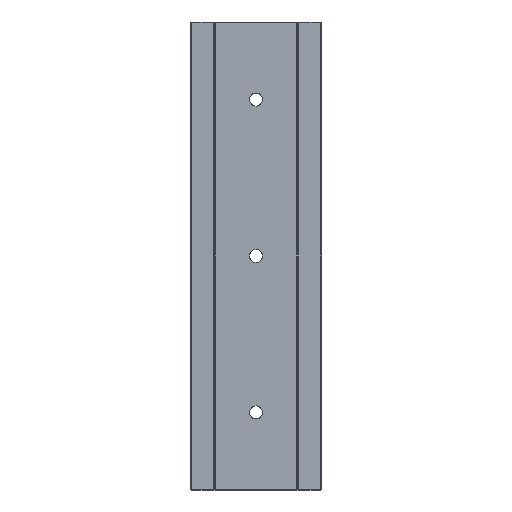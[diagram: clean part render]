
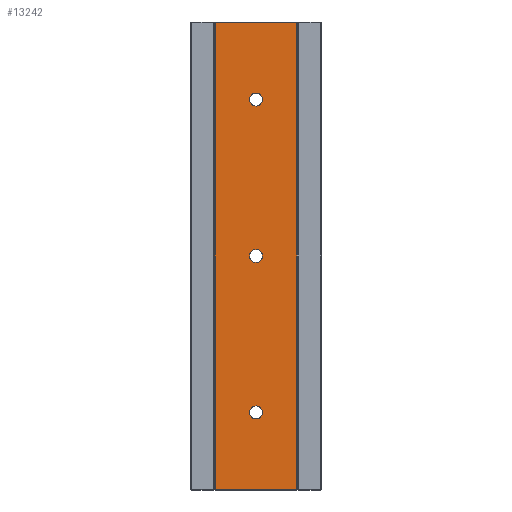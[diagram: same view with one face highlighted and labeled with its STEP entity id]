
A CAD part, left-side view. The second image highlights one B-rep face of the part: STEP entity #13242.
In plain terms, the highlighted planar face has unit normal (-1, 0, 0).
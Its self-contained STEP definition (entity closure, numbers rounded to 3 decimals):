
#48 = CIRCLE ( 'NONE', #5606, 2.5 ) ;
#636 = EDGE_CURVE ( 'NONE', #18643, #15711, #6563, .T. ) ;
#714 = DIRECTION ( 'NONE',  ( 0., 0., -1. ) ) ;
#745 = CARTESIAN_POINT ( 'NONE',  ( 0., 0.3, 179.2 ) ) ;
#1059 = EDGE_LOOP ( 'NONE', ( #9772, #5445 ) ) ;
#1218 = CARTESIAN_POINT ( 'NONE',  ( 0., 16., 29.75 ) ) ;
#1285 = CIRCLE ( 'NONE', #14360, 2.5 ) ;
#1440 = CARTESIAN_POINT ( 'NONE',  ( 0., 16., 147.25 ) ) ;
#1785 = CARTESIAN_POINT ( 'NONE',  ( 0., 31.7, 0.3 ) ) ;
#1857 = CARTESIAN_POINT ( 'NONE',  ( 0., 31.7, 179.2 ) ) ;
#2233 = VECTOR ( 'NONE', #7849, 1000. ) ;
#2482 = AXIS2_PLACEMENT_3D ( 'NONE', #11700, #2792, #13195 ) ;
#2490 = DIRECTION ( 'NONE',  ( 1., 0., 0. ) ) ;
#2570 = DIRECTION ( 'NONE',  ( 1., 0., 0. ) ) ;
#2723 = DIRECTION ( 'NONE',  ( 0., 0., -1. ) ) ;
#2736 = AXIS2_PLACEMENT_3D ( 'NONE', #1218, #11633, #2723 ) ;
#2792 = DIRECTION ( 'NONE',  ( 1., 0., 0. ) ) ;
#3376 = DIRECTION ( 'NONE',  ( 0., 1., 0. ) ) ;
#3485 = DIRECTION ( 'NONE',  ( 0., 0., -1. ) ) ;
#3564 = VECTOR ( 'NONE', #4461, 1000. ) ;
#3678 = CARTESIAN_POINT ( 'NONE',  ( 0., 16., 152.25 ) ) ;
#4337 = FACE_BOUND ( 'NONE', #18784, .T. ) ;
#4379 = ORIENTED_EDGE ( 'NONE', *, *, #12852, .T. ) ;
#4461 = DIRECTION ( 'NONE',  ( 0., 0., 1. ) ) ;
#4660 = EDGE_CURVE ( 'NONE', #10262, #6141, #15422, .T. ) ;
#4767 = CARTESIAN_POINT ( 'NONE',  ( 0., 16., 27.25 ) ) ;
#5074 = EDGE_CURVE ( 'NONE', #12142, #5458, #48, .T. ) ;
#5445 = ORIENTED_EDGE ( 'NONE', *, *, #5074, .T. ) ;
#5458 = VERTEX_POINT ( 'NONE', #1440 ) ;
#5606 = AXIS2_PLACEMENT_3D ( 'NONE', #6281, #16713, #7769 ) ;
#5936 = CARTESIAN_POINT ( 'NONE',  ( 0., 0.3, 179.5 ) ) ;
#6141 = VERTEX_POINT ( 'NONE', #745 ) ;
#6281 = CARTESIAN_POINT ( 'NONE',  ( 0., 16., 149.75 ) ) ;
#6563 = CIRCLE ( 'NONE', #2482, 2.5 ) ;
#7354 = EDGE_CURVE ( 'NONE', #13520, #8483, #1285, .T. ) ;
#7767 = CARTESIAN_POINT ( 'NONE',  ( 0., 16., 87.25 ) ) ;
#7769 = DIRECTION ( 'NONE',  ( 0., 0., -1. ) ) ;
#7777 = ORIENTED_EDGE ( 'NONE', *, *, #7354, .T. ) ;
#7849 = DIRECTION ( 'NONE',  ( 0., 0., -1. ) ) ;
#8289 = FACE_BOUND ( 'NONE', #1059, .T. ) ;
#8483 = VERTEX_POINT ( 'NONE', #7767 ) ;
#8750 = EDGE_CURVE ( 'NONE', #10333, #10262, #14529, .T. ) ;
#9085 = ORIENTED_EDGE ( 'NONE', *, *, #8750, .T. ) ;
#9240 = LINE ( 'NONE', #15206, #17166 ) ;
#9390 = PLANE ( 'NONE',  #18467 ) ;
#9624 = DIRECTION ( 'NONE',  ( 1., 0., 0. ) ) ;
#9772 = ORIENTED_EDGE ( 'NONE', *, *, #17294, .T. ) ;
#10116 = VECTOR ( 'NONE', #15840, 1000. ) ;
#10244 = ORIENTED_EDGE ( 'NONE', *, *, #4660, .T. ) ;
#10262 = VERTEX_POINT ( 'NONE', #16421 ) ;
#10333 = VERTEX_POINT ( 'NONE', #1785 ) ;
#10900 = CARTESIAN_POINT ( 'NONE',  ( 0., 0., 179.5 ) ) ;
#11294 = CARTESIAN_POINT ( 'NONE',  ( 0., 16., 92.25 ) ) ;
#11397 = CARTESIAN_POINT ( 'NONE',  ( 0., 16., 89.75 ) ) ;
#11480 = CARTESIAN_POINT ( 'NONE',  ( 0., 16., 149.75 ) ) ;
#11633 = DIRECTION ( 'NONE',  ( 1., 0., 0. ) ) ;
#11700 = CARTESIAN_POINT ( 'NONE',  ( 0., 16., 29.75 ) ) ;
#12142 = VERTEX_POINT ( 'NONE', #3678 ) ;
#12388 = DIRECTION ( 'NONE',  ( 1., 0., 0. ) ) ;
#12852 = EDGE_CURVE ( 'NONE', #15298, #10333, #13622, .T. ) ;
#12889 = DIRECTION ( 'NONE',  ( 0., 0., -1. ) ) ;
#12974 = DIRECTION ( 'NONE',  ( 0., 0., -1. ) ) ;
#13007 = AXIS2_PLACEMENT_3D ( 'NONE', #18536, #9624, #714 ) ;
#13195 = DIRECTION ( 'NONE',  ( 0., 0., -1. ) ) ;
#13242 = ADVANCED_FACE ( 'NONE', ( #16203, #8289, #16693, #4337 ), #9390, .F. ) ;
#13397 = ORIENTED_EDGE ( 'NONE', *, *, #18468, .T. ) ;
#13520 = VERTEX_POINT ( 'NONE', #11294 ) ;
#13613 = ORIENTED_EDGE ( 'NONE', *, *, #18240, .T. ) ;
#13622 = LINE ( 'NONE', #16778, #2233 ) ;
#14360 = AXIS2_PLACEMENT_3D ( 'NONE', #11397, #2490, #12889 ) ;
#14432 = ORIENTED_EDGE ( 'NONE', *, *, #18090, .T. ) ;
#14529 = LINE ( 'NONE', #17322, #10116 ) ;
#14737 = AXIS2_PLACEMENT_3D ( 'NONE', #11480, #2570, #12974 ) ;
#14846 = CIRCLE ( 'NONE', #14737, 2.5 ) ;
#15206 = CARTESIAN_POINT ( 'NONE',  ( 0., 0., 179.2 ) ) ;
#15298 = VERTEX_POINT ( 'NONE', #1857 ) ;
#15330 = ORIENTED_EDGE ( 'NONE', *, *, #636, .T. ) ;
#15422 = LINE ( 'NONE', #5936, #3564 ) ;
#15711 = VERTEX_POINT ( 'NONE', #4767 ) ;
#15840 = DIRECTION ( 'NONE',  ( 0., -1., 0. ) ) ;
#16203 = FACE_OUTER_BOUND ( 'NONE', #17175, .T. ) ;
#16421 = CARTESIAN_POINT ( 'NONE',  ( 0., 0.3, 0.3 ) ) ;
#16478 = CIRCLE ( 'NONE', #2736, 2.5 ) ;
#16693 = FACE_BOUND ( 'NONE', #17569, .T. ) ;
#16713 = DIRECTION ( 'NONE',  ( 1., 0., 0. ) ) ;
#16778 = CARTESIAN_POINT ( 'NONE',  ( 0., 31.7, 179.5 ) ) ;
#17166 = VECTOR ( 'NONE', #3376, 1000. ) ;
#17175 = EDGE_LOOP ( 'NONE', ( #13397, #4379, #9085, #10244 ) ) ;
#17294 = EDGE_CURVE ( 'NONE', #5458, #12142, #14846, .T. ) ;
#17322 = CARTESIAN_POINT ( 'NONE',  ( 0., 0., 0.3 ) ) ;
#17332 = CARTESIAN_POINT ( 'NONE',  ( 0., 16., 32.25 ) ) ;
#17569 = EDGE_LOOP ( 'NONE', ( #14432, #7777 ) ) ;
#17858 = CIRCLE ( 'NONE', #13007, 2.5 ) ;
#18090 = EDGE_CURVE ( 'NONE', #8483, #13520, #17858, .T. ) ;
#18240 = EDGE_CURVE ( 'NONE', #15711, #18643, #16478, .T. ) ;
#18467 = AXIS2_PLACEMENT_3D ( 'NONE', #10900, #12388, #3485 ) ;
#18468 = EDGE_CURVE ( 'NONE', #6141, #15298, #9240, .T. ) ;
#18536 = CARTESIAN_POINT ( 'NONE',  ( 0., 16., 89.75 ) ) ;
#18643 = VERTEX_POINT ( 'NONE', #17332 ) ;
#18784 = EDGE_LOOP ( 'NONE', ( #13613, #15330 ) ) ;
